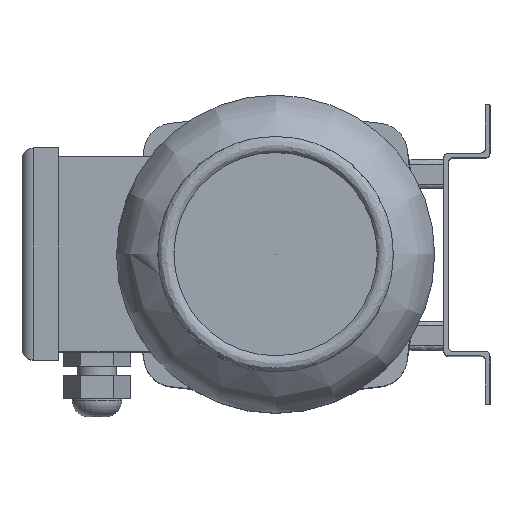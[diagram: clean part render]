
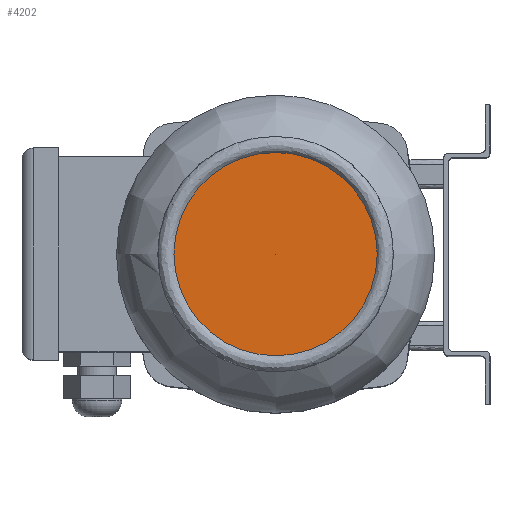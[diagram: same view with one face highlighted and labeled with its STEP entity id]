
A CAD part, top view. The second image highlights one B-rep face of the part: STEP entity #4202.
In plain terms, the highlighted conical face has half-angle 90 degrees and reference radius 0 mm.
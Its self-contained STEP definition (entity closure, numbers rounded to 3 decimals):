
#23=VERTEX_LOOP('',#3038);
#31=CONICAL_SURFACE('',#4519,0.,1.571);
#1234=ORIENTED_EDGE('',*,*,#2438,.F.);
#2438=EDGE_CURVE('',#3037,#3037,#3309,.T.);
#3037=VERTEX_POINT('',#7094);
#3038=VERTEX_POINT('',#7095);
#3309=CIRCLE('',#4520,44.08);
#3458=EDGE_LOOP('',(#1234));
#3788=FACE_BOUND('',#3458,.T.);
#3789=FACE_BOUND('',#23,.T.);
#4202=ADVANCED_FACE('',(#3788,#3789),#31,.F.);
#4519=AXIS2_PLACEMENT_3D('',#7092,#5025,#5026);
#4520=AXIS2_PLACEMENT_3D('',#7093,#5027,#5028);
#5025=DIRECTION('',(0.,0.,1.));
#5026=DIRECTION('',(1.,0.,0.));
#5027=DIRECTION('',(0.,0.,-1.));
#5028=DIRECTION('',(-1.,0.,0.));
#7092=CARTESIAN_POINT('',(0.,0.,350.357));
#7093=CARTESIAN_POINT('',(0.,0.,350.357));
#7094=CARTESIAN_POINT('',(-44.08,0.,350.357));
#7095=CARTESIAN_POINT('',(0.,0.,350.357));
